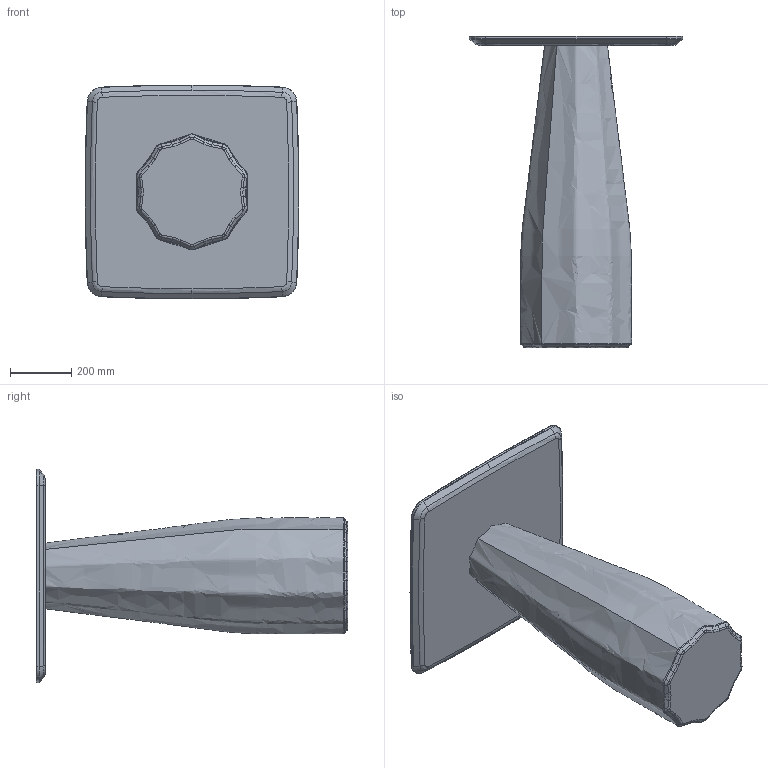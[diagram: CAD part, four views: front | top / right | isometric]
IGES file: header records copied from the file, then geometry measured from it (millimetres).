
Start section: SolidWorks IGES file using analytic representation for surfaces
Global section: file name: Z:\01-VICCARBE\VICCARBE TECNICO 2018\6.-Studio VCCB\Otros\Burin\Modelado\WEB\Nueva carpeta\BurinH100C70.IGS; native system: SolidWorks 2013; preprocessor: SolidWorks 2013; author: Usuario; date: 190219.124146; units: millimetre
Bounding box: 699.63 x 1020 x 699.67 mm (x, y, z)
Volume: 92021129.2 mm3; surface area: 2136194.2 mm2
Topology: 2 solids, 2 shells, 191 faces, 487 edges, 280 vertices
Faces by surface type: bspline 142, revolution 45, plane 4
